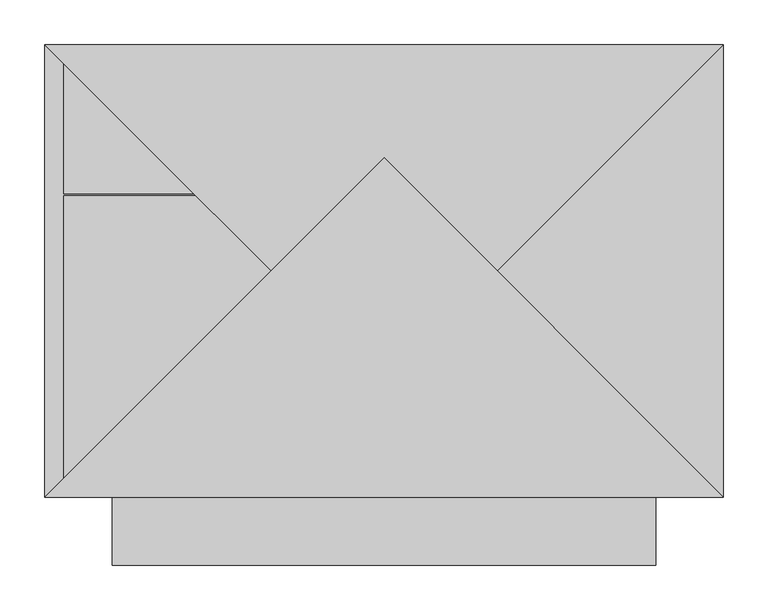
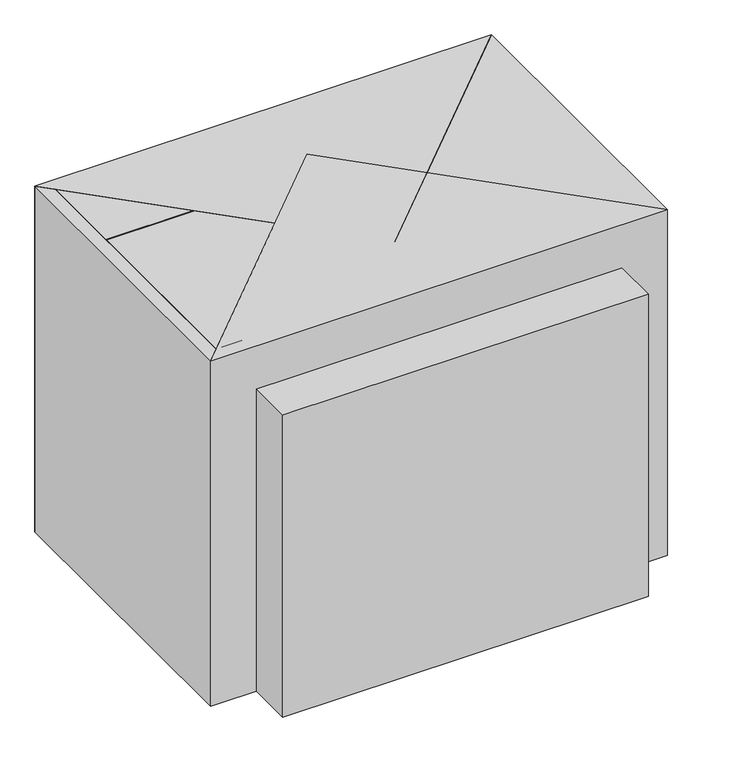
"""IFC4 building model written with IfcOpenShell, lengths in millimetres: proxy geometry, CCN^APOGEE_L3 30 LAT BF PED PULL LT (24 DEEP)-PARTS SOLID."""

from ifc_helpers import new_model, si_unit, frame, origin, origin_with_axes, place, context, project, spatial, polyline, outline, extrude, source, transform, mapped, element, save


def generic_models_14cf82bf(model_context):
    return source(origin(), model_context, "Body", "SweptSolid", [
        extrude(outline(polyline([(2647.95, 361.95), (3028.95, -19.05), (2266.95, -19.05), (2647.95, 361.95)])), origin_with_axes(), (0.0, 0.0, 1.0), 609.6),
        extrude(outline(polyline([(2286.0, 0.0), (2286.0, 469.9), (3009.9, 469.9), (3009.9, 0.0), (2286.0, 0.0)])), origin_with_axes(), (0.0, 0.0, 1.0), 19.05),
        extrude(outline(polyline([(2952.75, -19.05), (2952.75, -95.25), (2343.15, -95.25), (2343.15, -19.05), (2952.75, -19.05)])), origin_with_axes(), (0.0, 0.0, 1.0), 533.4),
        extrude(outline(polyline([(2647.95, 107.95), (2266.95, 488.95), (3028.95, 488.95), (2647.95, 107.95)])), origin_with_axes(), (0.0, 0.0, 1.0), 609.6),
        extrude(outline(polyline([(2774.95, 234.95), (3028.95, 488.95), (3028.95, -19.05), (2774.95, 234.95)])), origin_with_axes(), (0.0, 0.0, 1.0), 609.6),
        extrude(outline(polyline([(2288.38125, 467.51875), (3007.51875, 467.51875), (3007.51875, 321.46875), (2288.38125, 321.46875), (2288.38125, 467.51875)])), frame((0.0, 0.0, 590.55), z_axis=(0.0, 0.0, 1.0), x_axis=(1.0, 0.0, 0.0)), (0.0, 0.0, 1.0), 19.05),
        extrude(outline(polyline([(2288.38125, 319.0875), (3007.51875, 319.0875), (3007.51875, 2.38125), (2288.38125, 2.38125), (2288.38125, 319.0875)])), frame((0.0, 0.0, 590.55), z_axis=(0.0, 0.0, 1.0), x_axis=(1.0, 0.0, 0.0)), (0.0, 0.0, 1.0), 19.05),
        extrude(outline(polyline([(2266.95, 488.95), (2520.95, 234.95), (2266.95, -19.05), (2266.95, 488.95)])), origin_with_axes(), (0.0, 0.0, 1.0), 609.6),
    ])


if __name__ == "__main__":
    model = new_model("IFC4")
    model_context = context("Model", 3, world=origin())
    ifc_project = project(units=[si_unit("LENGTHUNIT", "METRE", prefix="MILLI")], contexts=[model_context])
    site = spatial("IfcSite", under=ifc_project)
    building = spatial("IfcBuilding", under=site)
    placement = place(None, origin())
    generic_models_shape = generic_models_14cf82bf(model_context)
    element("IfcBuildingElementProxy", 1, Name="CCN^APOGEE_L3 30 LAT BF PED PULL LT (24 DEEP)-PARTS SOLID", ObjectType="CCN^APOGEE_L3 30 LAT BF PED PULL LT (24 DEEP)-PARTS SOLID", at=placement, inside=building, context=model_context, shape_type="MappedRepresentation", body=[
        mapped(generic_models_shape, transform((0.0, 0.0, 0.0), x_axis=(1.0, 0.0, 0.0), y_axis=(0.0, 1.0, 0.0), z_axis=(0.0, 0.0, 1.0))),
    ])
    save(model, "model.ifc")
